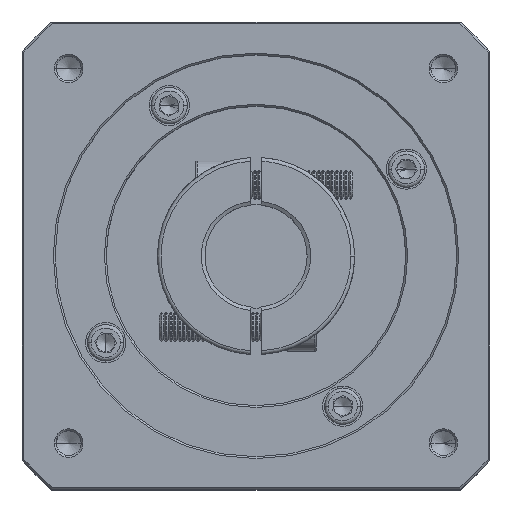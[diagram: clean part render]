
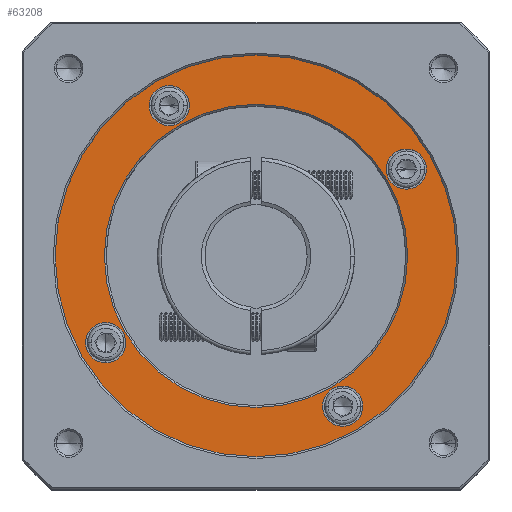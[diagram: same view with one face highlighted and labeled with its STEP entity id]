
A CAD part, top view. The second image highlights one B-rep face of the part: STEP entity #63208.
In plain terms, the highlighted planar face has unit normal (0, 0, 1).
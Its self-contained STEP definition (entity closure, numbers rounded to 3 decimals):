
#719 = AXIS2_PLACEMENT_3D ( 'NONE', #79683, #38617, #11673 ) ;
#725 = VERTEX_POINT ( 'NONE', #49668 ) ;
#790 = CARTESIAN_POINT ( 'NONE',  ( 24.343, 116.637, -4.938 ) ) ;
#2003 = FACE_OUTER_BOUND ( 'NONE', #18051, .T. ) ;
#2113 = DIRECTION ( 'NONE',  ( 0., 0., 1. ) ) ;
#2695 = CARTESIAN_POINT ( 'NONE',  ( 89.593, 75.501, -4.938 ) ) ;
#4549 = CARTESIAN_POINT ( 'NONE',  ( 24.707, 92.887, -4.938 ) ) ;
#5524 = EDGE_CURVE ( 'NONE', #55417, #55237, #34578, .T. ) ;
#7111 = EDGE_CURVE ( 'NONE', #73542, #725, #106115, .T. ) ;
#7269 = DIRECTION ( 'NONE',  ( 0., 0., -1. ) ) ;
#9112 = CARTESIAN_POINT ( 'NONE',  ( 36.593, 157.773, -4.938 ) ) ;
#11306 = VERTEX_POINT ( 'NONE', #24334 ) ;
#11673 = DIRECTION ( 'NONE',  ( 1., 0., 0. ) ) ;
#11960 = EDGE_CURVE ( 'NONE', #55237, #55417, #27929, .T. ) ;
#12582 = FACE_BOUND ( 'NONE', #18090, .T. ) ;
#14643 = DIRECTION ( 'NONE',  ( 1., 0., 0. ) ) ;
#15173 = ORIENTED_EDGE ( 'NONE', *, *, #24081, .T. ) ;
#15247 = FACE_BOUND ( 'NONE', #68991, .T. ) ;
#16246 = CIRCLE ( 'NONE', #719, 5.5 ) ;
#16546 = PLANE ( 'NONE',  #87707 ) ;
#16577 = DIRECTION ( 'NONE',  ( 1., 0., 0. ) ) ;
#16931 = CARTESIAN_POINT ( 'NONE',  ( 24.707, 92.887, -4.938 ) ) ;
#16981 = AXIS2_PLACEMENT_3D ( 'NONE', #65946, #40654, #25152 ) ;
#17462 = CIRCLE ( 'NONE', #82157, 5.5 ) ;
#18051 = EDGE_LOOP ( 'NONE', ( #53941, #15173 ) ) ;
#18090 = EDGE_LOOP ( 'NONE', ( #65716, #50021 ) ) ;
#18424 = ORIENTED_EDGE ( 'NONE', *, *, #5524, .T. ) ;
#18800 = CARTESIAN_POINT ( 'NONE',  ( 65.843, 116.637, -4.938 ) ) ;
#18870 = DIRECTION ( 'NONE',  ( 1., 0., 0. ) ) ;
#23109 = EDGE_LOOP ( 'NONE', ( #63977, #32491 ) ) ;
#23517 = CARTESIAN_POINT ( 'NONE',  ( 42.093, 157.773, -4.938 ) ) ;
#23992 = DIRECTION ( 'NONE',  ( 1., 0., 0. ) ) ;
#24081 = EDGE_CURVE ( 'NONE', #61146, #57362, #84103, .T. ) ;
#24334 = CARTESIAN_POINT ( 'NONE',  ( 112.479, 140.387, -4.938 ) ) ;
#24874 = VERTEX_POINT ( 'NONE', #40605 ) ;
#24950 = ORIENTED_EDGE ( 'NONE', *, *, #94078, .T. ) ;
#25152 = DIRECTION ( 'NONE',  ( 1., 0., 0. ) ) ;
#27232 = DIRECTION ( 'NONE',  ( 0., 0., 1. ) ) ;
#27929 = CIRCLE ( 'NONE', #73575, 5.5 ) ;
#28442 = EDGE_CURVE ( 'NONE', #53644, #37270, #90531, .T. ) ;
#28500 = DIRECTION ( 'NONE',  ( 0., 0., -1. ) ) ;
#30057 = EDGE_CURVE ( 'NONE', #37270, #53644, #101727, .T. ) ;
#32491 = ORIENTED_EDGE ( 'NONE', *, *, #7111, .T. ) ;
#33402 = DIRECTION ( 'NONE',  ( 0., 0., -1. ) ) ;
#34578 = CIRCLE ( 'NONE', #80471, 5.5 ) ;
#37270 = VERTEX_POINT ( 'NONE', #90312 ) ;
#38034 = AXIS2_PLACEMENT_3D ( 'NONE', #62605, #79447, #79793 ) ;
#38617 = DIRECTION ( 'NONE',  ( 0., 0., -1. ) ) ;
#40605 = CARTESIAN_POINT ( 'NONE',  ( 107.343, 116.637, -4.938 ) ) ;
#40654 = DIRECTION ( 'NONE',  ( 0., 0., -1. ) ) ;
#42497 = EDGE_CURVE ( 'NONE', #77056, #11306, #16246, .T. ) ;
#42740 = CARTESIAN_POINT ( 'NONE',  ( 120.843, 116.637, -4.938 ) ) ;
#44507 = CARTESIAN_POINT ( 'NONE',  ( 65.843, 116.637, -4.938 ) ) ;
#45036 = CIRCLE ( 'NONE', #94130, 55. ) ;
#45481 = ORIENTED_EDGE ( 'NONE', *, *, #42497, .T. ) ;
#48686 = AXIS2_PLACEMENT_3D ( 'NONE', #16931, #49742, #16577 ) ;
#49668 = CARTESIAN_POINT ( 'NONE',  ( 47.593, 157.773, -4.938 ) ) ;
#49742 = DIRECTION ( 'NONE',  ( 0., 0., -1. ) ) ;
#50021 = ORIENTED_EDGE ( 'NONE', *, *, #28442, .T. ) ;
#52118 = FACE_BOUND ( 'NONE', #96064, .T. ) ;
#53644 = VERTEX_POINT ( 'NONE', #99608 ) ;
#53941 = ORIENTED_EDGE ( 'NONE', *, *, #70142, .T. ) ;
#54274 = DIRECTION ( 'NONE',  ( 1., 0., 0. ) ) ;
#55237 = VERTEX_POINT ( 'NONE', #107268 ) ;
#55417 = VERTEX_POINT ( 'NONE', #92927 ) ;
#55726 = DIRECTION ( 'NONE',  ( 1., 0., 0. ) ) ;
#56752 = AXIS2_PLACEMENT_3D ( 'NONE', #69202, #69918, #18870 ) ;
#56968 = EDGE_CURVE ( 'NONE', #74627, #24874, #96640, .T. ) ;
#57362 = VERTEX_POINT ( 'NONE', #42740 ) ;
#58993 = AXIS2_PLACEMENT_3D ( 'NONE', #75746, #100011, #23992 ) ;
#59618 = AXIS2_PLACEMENT_3D ( 'NONE', #83697, #33402, #92153 ) ;
#60110 = CARTESIAN_POINT ( 'NONE',  ( 101.479, 140.387, -4.938 ) ) ;
#61146 = VERTEX_POINT ( 'NONE', #103063 ) ;
#62605 = CARTESIAN_POINT ( 'NONE',  ( 65.843, 116.637, -4.938 ) ) ;
#63208 = ADVANCED_FACE ( 'NONE', ( #2003, #15247, #92830, #52118, #65272, #12582 ), #16546, .T. ) ;
#63977 = ORIENTED_EDGE ( 'NONE', *, *, #76219, .T. ) ;
#65272 = FACE_BOUND ( 'NONE', #23109, .T. ) ;
#65716 = ORIENTED_EDGE ( 'NONE', *, *, #30057, .T. ) ;
#65946 = CARTESIAN_POINT ( 'NONE',  ( 65.843, 116.637, -4.938 ) ) ;
#67862 = ORIENTED_EDGE ( 'NONE', *, *, #83927, .T. ) ;
#68991 = EDGE_LOOP ( 'NONE', ( #67862, #73145 ) ) ;
#69202 = CARTESIAN_POINT ( 'NONE',  ( 65.843, 116.637, -4.938 ) ) ;
#69918 = DIRECTION ( 'NONE',  ( 0., 0., -1. ) ) ;
#70142 = EDGE_CURVE ( 'NONE', #57362, #61146, #45036, .T. ) ;
#73076 = AXIS2_PLACEMENT_3D ( 'NONE', #4549, #28500, #104837 ) ;
#73145 = ORIENTED_EDGE ( 'NONE', *, *, #56968, .T. ) ;
#73542 = VERTEX_POINT ( 'NONE', #9112 ) ;
#73575 = AXIS2_PLACEMENT_3D ( 'NONE', #81284, #90117, #55726 ) ;
#74627 = VERTEX_POINT ( 'NONE', #790 ) ;
#75746 = CARTESIAN_POINT ( 'NONE',  ( 106.979, 140.387, -4.938 ) ) ;
#75919 = CIRCLE ( 'NONE', #16981, 41.5 ) ;
#76219 = EDGE_CURVE ( 'NONE', #725, #73542, #17462, .T. ) ;
#77056 = VERTEX_POINT ( 'NONE', #60110 ) ;
#78506 = CIRCLE ( 'NONE', #58993, 5.5 ) ;
#79447 = DIRECTION ( 'NONE',  ( 0., 0., 1. ) ) ;
#79683 = CARTESIAN_POINT ( 'NONE',  ( 106.979, 140.387, -4.938 ) ) ;
#79793 = DIRECTION ( 'NONE',  ( 1., 0., 0. ) ) ;
#80471 = AXIS2_PLACEMENT_3D ( 'NONE', #2695, #103742, #54274 ) ;
#81284 = CARTESIAN_POINT ( 'NONE',  ( 89.593, 75.501, -4.938 ) ) ;
#82157 = AXIS2_PLACEMENT_3D ( 'NONE', #23517, #7269, #14643 ) ;
#83697 = CARTESIAN_POINT ( 'NONE',  ( 42.093, 157.773, -4.938 ) ) ;
#83927 = EDGE_CURVE ( 'NONE', #24874, #74627, #75919, .T. ) ;
#84103 = CIRCLE ( 'NONE', #38034, 55. ) ;
#86002 = DIRECTION ( 'NONE',  ( 1., 0., 0. ) ) ;
#87707 = AXIS2_PLACEMENT_3D ( 'NONE', #44507, #2113, #103184 ) ;
#90117 = DIRECTION ( 'NONE',  ( 0., 0., -1. ) ) ;
#90312 = CARTESIAN_POINT ( 'NONE',  ( 30.207, 92.887, -4.938 ) ) ;
#90331 = EDGE_LOOP ( 'NONE', ( #24950, #45481 ) ) ;
#90531 = CIRCLE ( 'NONE', #73076, 5.5 ) ;
#92153 = DIRECTION ( 'NONE',  ( 1., 0., 0. ) ) ;
#92830 = FACE_BOUND ( 'NONE', #90331, .T. ) ;
#92927 = CARTESIAN_POINT ( 'NONE',  ( 95.093, 75.501, -4.938 ) ) ;
#94078 = EDGE_CURVE ( 'NONE', #11306, #77056, #78506, .T. ) ;
#94130 = AXIS2_PLACEMENT_3D ( 'NONE', #18800, #27232, #86002 ) ;
#96064 = EDGE_LOOP ( 'NONE', ( #18424, #102671 ) ) ;
#96640 = CIRCLE ( 'NONE', #56752, 41.5 ) ;
#99608 = CARTESIAN_POINT ( 'NONE',  ( 19.207, 92.887, -4.938 ) ) ;
#100011 = DIRECTION ( 'NONE',  ( 0., 0., -1. ) ) ;
#101727 = CIRCLE ( 'NONE', #48686, 5.5 ) ;
#102671 = ORIENTED_EDGE ( 'NONE', *, *, #11960, .T. ) ;
#103063 = CARTESIAN_POINT ( 'NONE',  ( 10.843, 116.637, -4.938 ) ) ;
#103184 = DIRECTION ( 'NONE',  ( 1., 0., 0. ) ) ;
#103742 = DIRECTION ( 'NONE',  ( 0., 0., -1. ) ) ;
#104837 = DIRECTION ( 'NONE',  ( 1., 0., 0. ) ) ;
#106115 = CIRCLE ( 'NONE', #59618, 5.5 ) ;
#107268 = CARTESIAN_POINT ( 'NONE',  ( 84.093, 75.501, -4.938 ) ) ;
